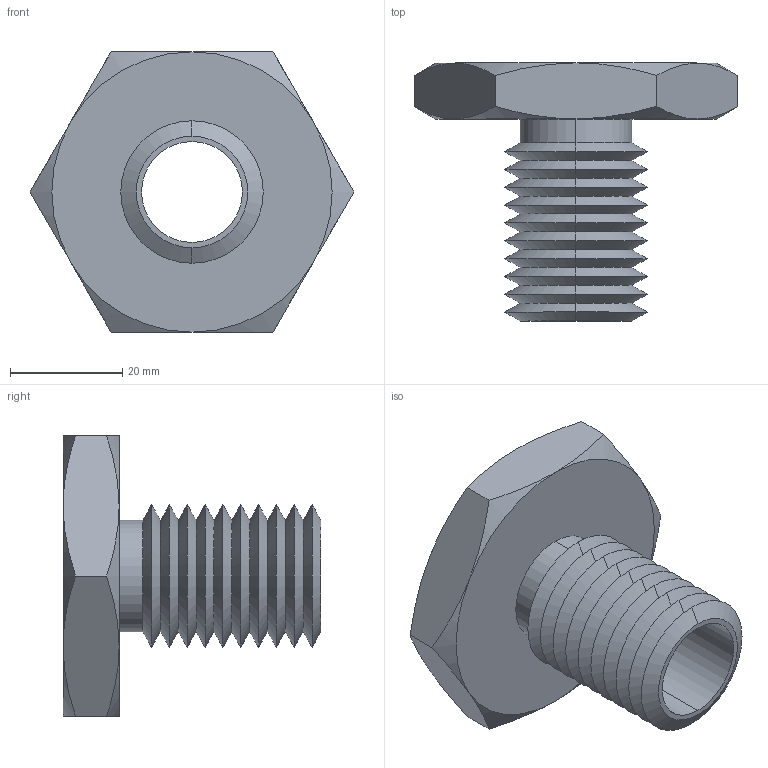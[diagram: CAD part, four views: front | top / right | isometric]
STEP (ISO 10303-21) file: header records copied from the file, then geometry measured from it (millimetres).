
FILE_DESCRIPTION (( 'STEP AP203' ), '1' );
FILE_NAME ('63302.W5100_M18x2,5.step', '2013-12-08T11:39:50', ( 'User' ), ( '' ), 'SwSTEP 2.0', 'SolidWorks 2009', '' );
FILE_SCHEMA (( 'CONFIG_CONTROL_DESIGN' ));
Length unit declared in the file: millimetre
Products named in the file (1): 63302.W5100_M18x2,5
Bounding box: 57.73 x 46 x 50 mm (x, y, z)
Volume: 23657.5 mm3; surface area: 12664.1 mm2
Topology: 1 solids, 1 shells, 67 faces, 138 edges, 74 vertices
Faces by surface type: cone 54, plane 9, cylinder 4
Entity records: 1939 total; most frequent: CARTESIAN_POINT 464, DIRECTION 312, ORIENTED_EDGE 276, EDGE_CURVE 138, AXIS2_PLACEMENT_3D 130, VERTEX_POINT 74, EDGE_LOOP 70, ADVANCED_FACE 67
